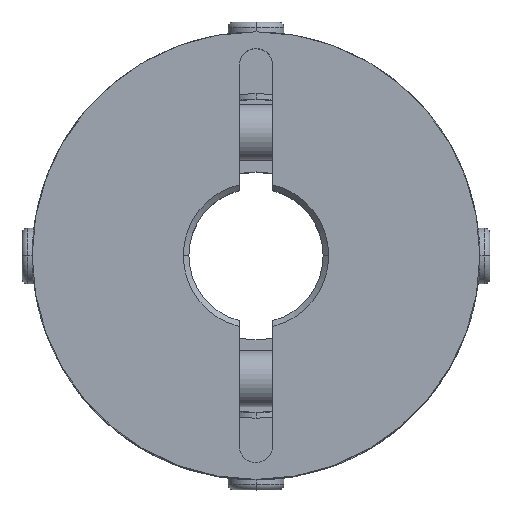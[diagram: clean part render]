
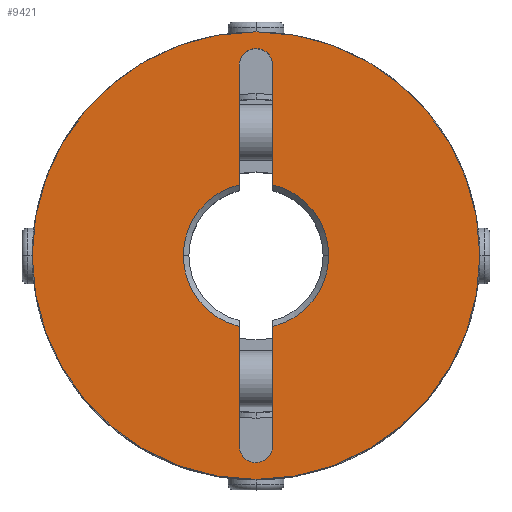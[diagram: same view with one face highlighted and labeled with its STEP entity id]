
A CAD part, top view. The second image highlights one B-rep face of the part: STEP entity #9421.
In plain terms, the highlighted planar face has unit normal (0, 0, 1).
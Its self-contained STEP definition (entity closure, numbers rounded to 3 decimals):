
#993=CARTESIAN_POINT('',(-20.0,0.,20.0));
#994=VERTEX_POINT('',#993);
#1001=CARTESIAN_POINT('',(20.0,0.0,20.0));
#1002=VERTEX_POINT('',#1001);
#1003=CARTESIAN_POINT('',(0.0,0.0,20.0));
#1004=DIRECTION('',(0.0,0.0,-1.0));
#1005=DIRECTION('',(1.0,0.0,0.0));
#1006=AXIS2_PLACEMENT_3D('',#1003,#1004,#1005);
#1007=CIRCLE('',#1006,20.0);
#1008=EDGE_CURVE('',#994,#1002,#1007,.T.);
#1319=CARTESIAN_POINT('',(-1.061,18.061,20.0));
#1320=VERTEX_POINT('',#1319);
#1336=CARTESIAN_POINT('',(1.5,17.,20.0));
#1337=VERTEX_POINT('',#1336);
#1344=CARTESIAN_POINT('',(0.,17.,20.0));
#1345=DIRECTION('',(0.0,0.0,1.));
#1346=DIRECTION('',(0.707,0.707,0.0));
#1347=AXIS2_PLACEMENT_3D('',#1344,#1345,#1346);
#1348=CIRCLE('',#1347,1.5);
#1349=EDGE_CURVE('',#1337,#1320,#1348,.T.);
#1361=CARTESIAN_POINT('',(1.061,-18.061,20.0));
#1362=VERTEX_POINT('',#1361);
#1378=CARTESIAN_POINT('',(-1.5,-17.,20.0));
#1379=VERTEX_POINT('',#1378);
#1386=CARTESIAN_POINT('',(0.0,-17.,20.0));
#1387=DIRECTION('',(0.0,0.0,1.0));
#1388=DIRECTION('',(-0.707,-0.707,0.0));
#1389=AXIS2_PLACEMENT_3D('',#1386,#1387,#1388);
#1390=CIRCLE('',#1389,1.5);
#1391=EDGE_CURVE('',#1379,#1362,#1390,.T.);
#1401=CARTESIAN_POINT('',(-6.5,0.,20.0));
#1402=VERTEX_POINT('',#1401);
#1409=CARTESIAN_POINT('',(-1.5,-6.325,20.0));
#1410=VERTEX_POINT('',#1409);
#1411=CARTESIAN_POINT('',(0.0,0.0,20.0));
#1412=DIRECTION('',(0.0,0.0,1.0));
#1413=DIRECTION('',(-1.0,0.0,0.0));
#1414=AXIS2_PLACEMENT_3D('',#1411,#1412,#1413);
#1415=CIRCLE('',#1414,6.5);
#1416=EDGE_CURVE('',#1402,#1410,#1415,.T.);
#1440=CARTESIAN_POINT('',(6.5,0.,20.0));
#1441=VERTEX_POINT('',#1440);
#1448=CARTESIAN_POINT('',(1.5,6.325,20.0));
#1449=VERTEX_POINT('',#1448);
#1450=CARTESIAN_POINT('',(0.0,0.0,20.0));
#1451=DIRECTION('',(0.0,0.0,1.0));
#1452=DIRECTION('',(1.0,0.0,0.0));
#1453=AXIS2_PLACEMENT_3D('',#1450,#1451,#1452);
#1454=CIRCLE('',#1453,6.5);
#1455=EDGE_CURVE('',#1441,#1449,#1454,.T.);
#9226=CARTESIAN_POINT('',(-1.5,17.,20.0));
#9227=VERTEX_POINT('',#9226);
#9234=CARTESIAN_POINT('',(-1.5,6.325,20.0));
#9235=VERTEX_POINT('',#9234);
#9236=CARTESIAN_POINT('',(-1.5,6.325,20.0));
#9237=DIRECTION('',(0.0,1.0,0.0));
#9238=VECTOR('',#9237,10.675);
#9239=LINE('',#9236,#9238);
#9240=EDGE_CURVE('',#9235,#9227,#9239,.T.);
#9315=CARTESIAN_POINT('',(1.5,17.,20.0));
#9316=DIRECTION('',(0.0,-1.0,0.0));
#9317=VECTOR('',#9316,10.675);
#9318=LINE('',#9315,#9317);
#9319=EDGE_CURVE('',#1337,#1449,#9318,.T.);
#9337=CARTESIAN_POINT('',(1.5,-6.325,20.0));
#9338=VERTEX_POINT('',#9337);
#9352=CARTESIAN_POINT('',(0.0,0.0,20.0));
#9353=DIRECTION('',(0.0,0.0,1.0));
#9354=DIRECTION('',(1.0,0.0,0.0));
#9355=AXIS2_PLACEMENT_3D('',#9352,#9353,#9354);
#9356=CIRCLE('',#9355,6.5);
#9357=EDGE_CURVE('',#9338,#1441,#9356,.T.);
#9362=CARTESIAN_POINT('',(1.818,0.,20.0));
#9363=DIRECTION('',(0.0,0.0,1.0));
#9364=DIRECTION('',(1.0,0.0,0.0));
#9365=AXIS2_PLACEMENT_3D('',#9362,#9363,#9364);
#9366=PLANE('',#9365);
#9367=CARTESIAN_POINT('',(0.0,0.0,20.0));
#9368=DIRECTION('',(0.0,0.0,-1.0));
#9369=DIRECTION('',(1.0,0.0,0.0));
#9370=AXIS2_PLACEMENT_3D('',#9367,#9368,#9369);
#9371=CIRCLE('',#9370,20.0);
#9372=EDGE_CURVE('',#1002,#994,#9371,.T.);
#9373=ORIENTED_EDGE('',*,*,#9372,.F.);
#9374=ORIENTED_EDGE('',*,*,#1008,.F.);
#9375=EDGE_LOOP('',(#9373,#9374));
#9376=FACE_OUTER_BOUND('',#9375,.T.);
#9377=ORIENTED_EDGE('',*,*,#9357,.F.);
#9378=CARTESIAN_POINT('',(1.5,-17.,20.0));
#9379=VERTEX_POINT('',#9378);
#9380=CARTESIAN_POINT('',(1.5,-6.325,20.0));
#9381=DIRECTION('',(0.0,-1.0,0.0));
#9382=VECTOR('',#9381,10.675);
#9383=LINE('',#9380,#9382);
#9384=EDGE_CURVE('',#9338,#9379,#9383,.T.);
#9385=ORIENTED_EDGE('',*,*,#9384,.T.);
#9386=CARTESIAN_POINT('',(0.0,-17.,20.0));
#9387=DIRECTION('',(0.0,0.0,1.0));
#9388=DIRECTION('',(-0.707,-0.707,0.0));
#9389=AXIS2_PLACEMENT_3D('',#9386,#9387,#9388);
#9390=CIRCLE('',#9389,1.5);
#9391=EDGE_CURVE('',#1362,#9379,#9390,.T.);
#9392=ORIENTED_EDGE('',*,*,#9391,.F.);
#9393=ORIENTED_EDGE('',*,*,#1391,.F.);
#9394=CARTESIAN_POINT('',(-1.5,-17.,20.0));
#9395=DIRECTION('',(0.0,1.0,0.0));
#9396=VECTOR('',#9395,10.675);
#9397=LINE('',#9394,#9396);
#9398=EDGE_CURVE('',#1379,#1410,#9397,.T.);
#9399=ORIENTED_EDGE('',*,*,#9398,.T.);
#9400=ORIENTED_EDGE('',*,*,#1416,.F.);
#9401=CARTESIAN_POINT('',(0.0,0.0,20.0));
#9402=DIRECTION('',(0.0,0.0,1.0));
#9403=DIRECTION('',(-1.0,0.0,0.0));
#9404=AXIS2_PLACEMENT_3D('',#9401,#9402,#9403);
#9405=CIRCLE('',#9404,6.5);
#9406=EDGE_CURVE('',#9235,#1402,#9405,.T.);
#9407=ORIENTED_EDGE('',*,*,#9406,.F.);
#9408=ORIENTED_EDGE('',*,*,#9240,.T.);
#9409=CARTESIAN_POINT('',(0.,17.,20.0));
#9410=DIRECTION('',(0.0,0.0,1.));
#9411=DIRECTION('',(0.707,0.707,0.0));
#9412=AXIS2_PLACEMENT_3D('',#9409,#9410,#9411);
#9413=CIRCLE('',#9412,1.5);
#9414=EDGE_CURVE('',#1320,#9227,#9413,.T.);
#9415=ORIENTED_EDGE('',*,*,#9414,.F.);
#9416=ORIENTED_EDGE('',*,*,#1349,.F.);
#9417=ORIENTED_EDGE('',*,*,#9319,.T.);
#9418=ORIENTED_EDGE('',*,*,#1455,.F.);
#9419=EDGE_LOOP('',(#9377,#9385,#9392,#9393,#9399,#9400,#9407,#9408,#9415,#9416,#9417,#9418));
#9420=FACE_BOUND('',#9419,.T.);
#9421=ADVANCED_FACE('',(#9376,#9420),#9366,.T.);
